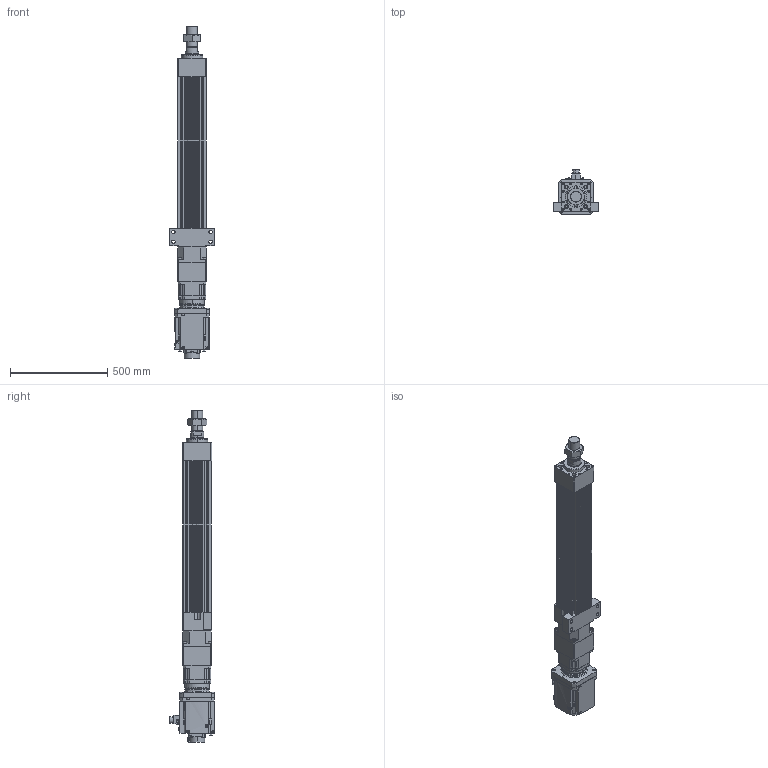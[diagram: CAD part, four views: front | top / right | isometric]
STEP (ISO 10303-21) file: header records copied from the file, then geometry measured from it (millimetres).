
FILE_DESCRIPTION (( 'STEP AP203' ), '1' );
FILE_NAME ('HES150NS(HS)-S500-W050G00-M-FFC.STEP', '2026-06-10T06:42:28', ( 'tms' ), ( '' ), 'SwSTEP 2.0', 'SolidWorks 2013', '' );
FILE_SCHEMA (( 'CONFIG_CONTROL_DESIGN' ));
Length unit declared in the file: millimetre
Products named in the file (9): HES150-S-G142; HG-SR502B; HES150NS(HS)-S500-W050G00-M-FFC; HES150-M-ROD-500; AB1423; AB1421; M56X2.0P; AB1422; HES150-FFC-500
Assembly tree (8 placements, depth 2):
  HES150NS(HS)-S500-W050G00-M-FFC
    HES150-FFC-500
    HES150-M-ROD-500
    M56X2.0P
    HES150-S-G142
    AB1421
    AB1422
    AB1423
    HG-SR502B
Bounding box: 230 x 228.85 x 1703 mm (x, y, z)
Volume: 19729707.4 mm3; surface area: 2074957.3 mm2
Topology: 5 solids, 19 shells, 1588 faces, 4128 edges, 2674 vertices
Faces by surface type: cylinder 726, plane 616, cone 164, bspline 76, torus 6
Entity records: 57568 total; most frequent: CARTESIAN_POINT 17176, DIRECTION 8476, ORIENTED_EDGE 8134, EDGE_CURVE 4089, AXIS2_PLACEMENT_3D 3199, VERTEX_POINT 2674, VECTOR 2078, LINE 2078
